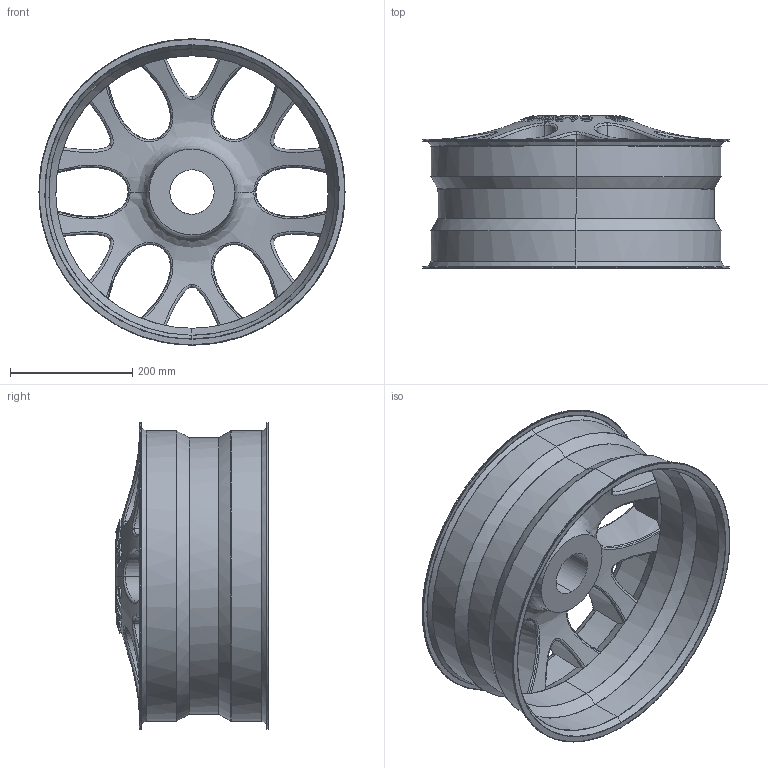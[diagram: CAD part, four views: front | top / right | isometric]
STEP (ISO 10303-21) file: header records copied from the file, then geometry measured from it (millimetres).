
FILE_DESCRIPTION((''),'2;1');
FILE_NAME('','2021-08-12T16:22:31',(''),(''),'','CADfix','');
FILE_SCHEMA(('AP242_MANAGED_MODEL_BASED_3D_ENGINEERING_MIM_LF { 1 0 10303 442 3 1 4 }'));
Length unit declared in the file: millimetre
Bounding box: 499.71 x 249.78 x 500 mm (x, y, z)
Volume: 8100786.2 mm3; surface area: 1099038.5 mm2
Topology: 1 solids, 1 shells, 614 faces, 1610 edges, 1018 vertices
Faces by surface type: bspline 484, cone 62, cylinder 56, plane 12
Entity records: 58677 total; most frequent: CARTESIAN_POINT 47296, ORIENTED_EDGE 3220, EDGE_CURVE 1610, STYLED_ITEM 1228, B_SPLINE_CURVE_WITH_KNOTS 1100, VERTEX_POINT 1018, EDGE_LOOP 660, FACE_OUTER_BOUND 614
